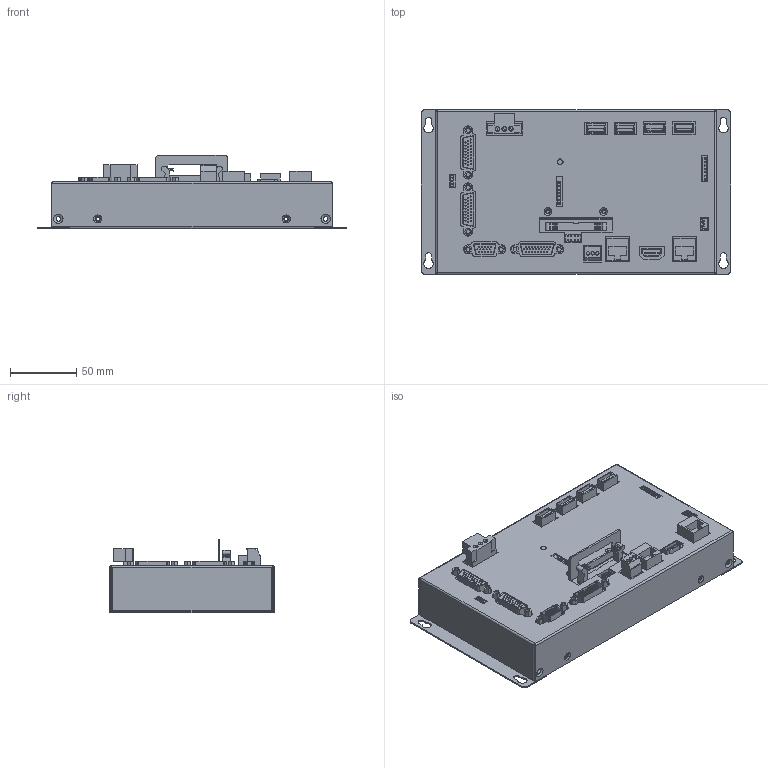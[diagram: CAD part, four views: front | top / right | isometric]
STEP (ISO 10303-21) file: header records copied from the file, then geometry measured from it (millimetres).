
FILE_DESCRIPTION (( 'STEP AP214' ), '1' );
FILE_NAME ('B02主板单板机装配体.STEP', '2023-09-19T06:40:15', ( '' ), ( '' ), 'SwSTEP 2.0', 'SolidWorks 2018', '' );
FILE_SCHEMA (( 'AUTOMOTIVE_DESIGN' ));
Length unit declared in the file: millimetre
Products named in the file (5): B2主板单板机下铁壳; B02主板单板机装配体; 铁壳牛角插头支撑件; MIII 8渡綴裔沺褲; CPU-B02-G-V5
Assembly tree (4 placements, depth 2):
  B02主板单板机装配体
    MIII 8渡綴裔沺褲
    CPU-B02-G-V5
    B2主板单板机下铁壳
    铁壳牛角插头支撑件
Bounding box: 233 x 124 x 55 mm (x, y, z)
Volume: 172286.9 mm3; surface area: 244420.5 mm2
Topology: 4 solids, 69 shells, 1478 faces, 3469 edges, 2360 vertices
Faces by surface type: plane 1036, cylinder 424, cone 14, bspline 4
Full cylindrical faces by diameter (mm): 0.544 x8, 0.6 x3, 0.8 x211, 1 x3, 2.5 x12, 2.6 x3, 3 x16, 3.172 x2, 3.5 x10, 4.5 x1, 5.4 x6, 5.5 x6, 10.4 x1, 14 x1
Entity records: 47437 total; most frequent: DIRECTION 6766, CARTESIAN_POINT 6739, ORIENTED_EDGE 5888, EDGE_CURVE 2944, AXIS2_PLACEMENT_3D 2357, EDGE_LOOP 2204, VERTEX_POINT 2132, LINE 2052
